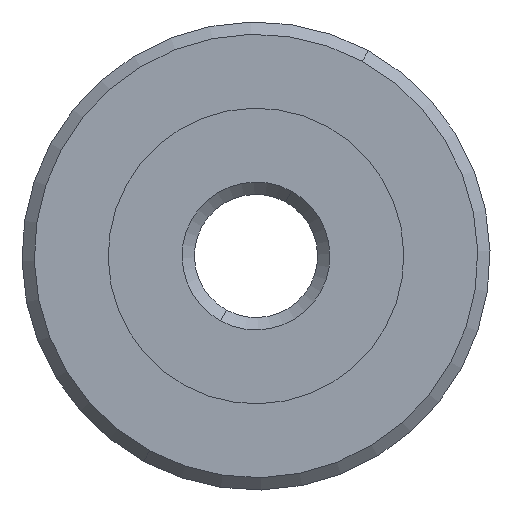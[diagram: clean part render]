
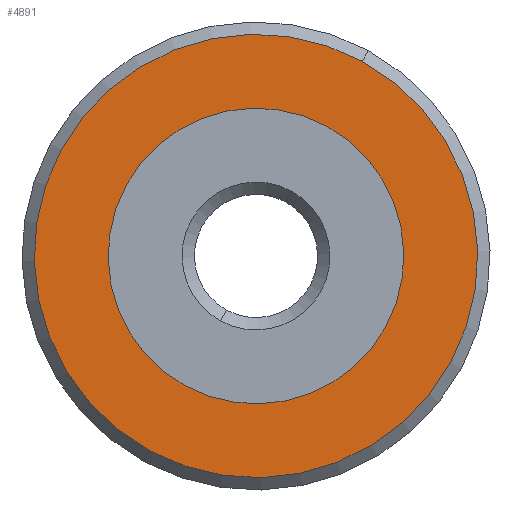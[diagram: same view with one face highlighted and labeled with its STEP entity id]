
A CAD part, front view. The second image highlights one B-rep face of the part: STEP entity #4891.
In plain terms, the highlighted planar face has unit normal (0, -1, 0).
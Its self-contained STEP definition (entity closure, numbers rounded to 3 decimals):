
#4785=AXIS2_PLACEMENT_3D('Circle Axis2P3D',#4783,#4784,$) ;
#4811=AXIS2_PLACEMENT_3D('Circle Axis2P3D',#4809,#4810,$) ;
#4867=AXIS2_PLACEMENT_3D('Plane Axis2P3D',#4864,#4865,#4866) ;
#4871=AXIS2_PLACEMENT_3D('Circle Axis2P3D',#4869,#4870,$) ;
#4880=AXIS2_PLACEMENT_3D('Circle Axis2P3D',#4878,#4879,$) ;
#4783=CARTESIAN_POINT('Axis2P3D Location',(0.,-0.824,-0.102)) ;
#4787=CARTESIAN_POINT('Vertex',(2.877,-0.824,5.163)) ;
#4789=CARTESIAN_POINT('Vertex',(-2.877,-0.824,-5.368)) ;
#4809=CARTESIAN_POINT('Axis2P3D Location',(0.,-0.824,-0.102)) ;
#4864=CARTESIAN_POINT('Axis2P3D Location',(0.,-0.824,8.898)) ;
#4869=CARTESIAN_POINT('Axis2P3D Location',(0.,-0.824,-0.102)) ;
#4873=CARTESIAN_POINT('Vertex',(-4.315,-0.824,-8.001)) ;
#4875=CARTESIAN_POINT('Vertex',(4.315,-0.824,7.796)) ;
#4878=CARTESIAN_POINT('Axis2P3D Location',(0.,-0.824,-0.102)) ;
#4784=DIRECTION('Axis2P3D Direction',(0.,1.,0.)) ;
#4810=DIRECTION('Axis2P3D Direction',(0.,1.,0.)) ;
#4865=DIRECTION('Axis2P3D Direction',(0.,1.,0.)) ;
#4866=DIRECTION('Axis2P3D XDirection',(1.,0.,0.)) ;
#4870=DIRECTION('Axis2P3D Direction',(0.,1.,0.)) ;
#4879=DIRECTION('Axis2P3D Direction',(0.,1.,0.)) ;
#4884=ORIENTED_EDGE('',*,*,#4877,.F.) ;
#4885=ORIENTED_EDGE('',*,*,#4882,.F.) ;
#4888=ORIENTED_EDGE('',*,*,#4813,.T.) ;
#4889=ORIENTED_EDGE('',*,*,#4791,.T.) ;
#4890=FACE_BOUND('',#4887,.T.) ;
#4891=ADVANCED_FACE('',(#4886,#4890),#4868,.F.) ;
#4786=CIRCLE('generated circle',#4785,6.) ;
#4812=CIRCLE('generated circle',#4811,6.) ;
#4872=CIRCLE('generated circle',#4871,9.) ;
#4881=CIRCLE('generated circle',#4880,9.) ;
#4791=EDGE_CURVE('',#4788,#4790,#4786,.T.) ;
#4813=EDGE_CURVE('',#4790,#4788,#4812,.T.) ;
#4877=EDGE_CURVE('',#4874,#4876,#4872,.T.) ;
#4882=EDGE_CURVE('',#4876,#4874,#4881,.T.) ;
#4883=EDGE_LOOP('',(#4884,#4885)) ;
#4887=EDGE_LOOP('',(#4888,#4889)) ;
#4886=FACE_OUTER_BOUND('',#4883,.T.) ;
#4868=PLANE('Plane',#4867) ;
#4788=VERTEX_POINT('',#4787) ;
#4790=VERTEX_POINT('',#4789) ;
#4874=VERTEX_POINT('',#4873) ;
#4876=VERTEX_POINT('',#4875) ;
